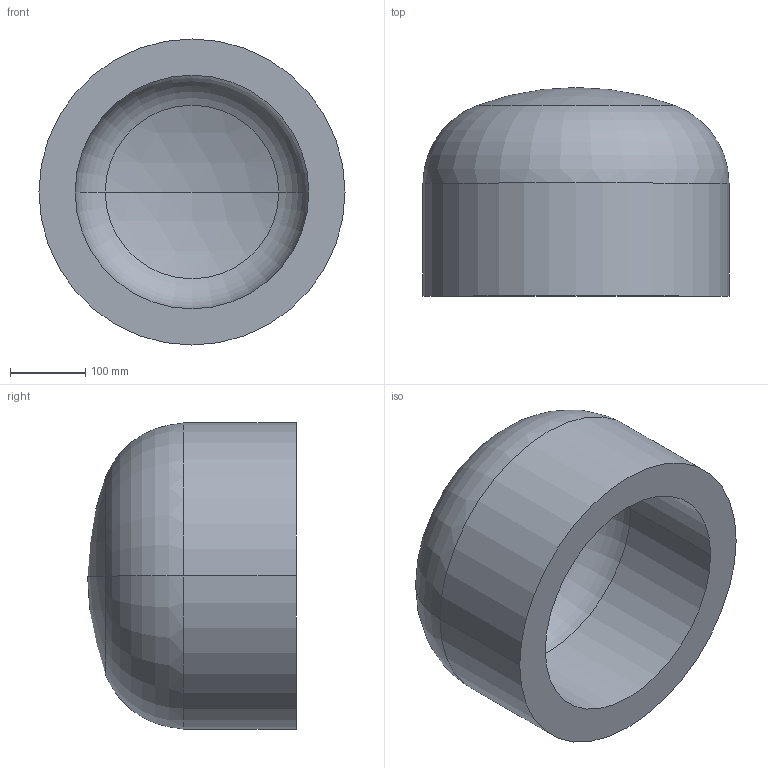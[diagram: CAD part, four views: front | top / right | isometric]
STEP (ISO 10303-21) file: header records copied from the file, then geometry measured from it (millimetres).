
FILE_DESCRIPTION (( 'STEP AP203' ), '1' );
FILE_NAME ('DIN 28013 Korbbogenform_-_Boden DIN 28013 - 406,4 x 150 - I - s=48.step', '2016-07-01T07:51:27', ( '' ), ( '' ), 'SwSTEP 2.0', 'SolidWorks 2013', '' );
FILE_SCHEMA (( 'CONFIG_CONTROL_DESIGN' ));
Length unit declared in the file: millimetre
Products named in the file (1): DIN 28013 Korbbogenform_-_Boden DIN 28013 - 406,4 x 150 - I - s=48
Bounding box: 406.4 x 277.07 x 406.4 mm (x, y, z)
Volume: 15555915.6 mm3; surface area: 707034 mm2
Topology: 1 solids, 1 shells, 13 faces, 24 edges, 14 vertices
Faces by surface type: torus 4, cylinder 4, sphere 4, plane 1
Entity records: 407 total; most frequent: DIRECTION 72, CARTESIAN_POINT 52, ORIENTED_EDGE 48, AXIS2_PLACEMENT_3D 34, EDGE_CURVE 24, CIRCLE 20, VERTEX_POINT 14, EDGE_LOOP 14
